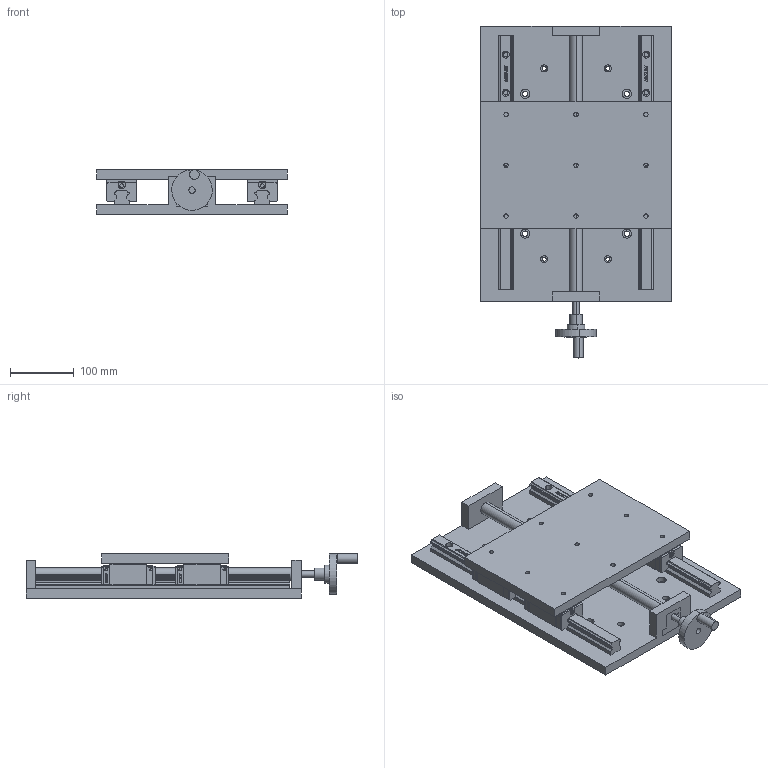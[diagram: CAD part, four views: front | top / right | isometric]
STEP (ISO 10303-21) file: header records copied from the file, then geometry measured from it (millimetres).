
FILE_DESCRIPTION (( 'STEP AP214' ), '1' );
FILE_NAME ('PT300-200.STEP', '2022-09-18T06:02:57', ( '' ), ( '' ), 'SwSTEP 2.0', 'SolidWorks 2017', '' );
FILE_SCHEMA (( 'AUTOMOTIVE_DESIGN' ));
Length unit declared in the file: millimetre
Products named in the file (12): 忒謫; PT300-200; 標踡輸; 標踡; HGH25CA2R300Z0C_GW202204023669; 醱啣; 菁啣-200; HGH25C__X2_5DE65C01_X0__temp; M6H; HGH25C__X2_53F35C01_X0__temp; 34320001; HGR25_temp-1
Assembly tree (12 placements, depth 3):
  PT300-200
    菁啣-200
    醱啣
    HGH25CA2R300Z0C_GW202204023669  x2
      HGR25_temp-1
      HGH25C__X2_53F35C01_X0__temp
      M6H
      HGH25C__X2_5DE65C01_X0__temp
      34320001
    標踡
      標踡輸
      忒謫
Bounding box: 300 x 522.1 x 70.06 mm (x, y, z)
Volume: 3865395.8 mm3; surface area: 681108.4 mm2
Topology: 31 solids, 33 shells, 2826 faces, 7945 edges, 5240 vertices
Faces by surface type: plane 1878, cylinder 758, bspline 126, cone 56, torus 8
Entity records: 64134 total; most frequent: CARTESIAN_POINT 9996, ORIENTED_EDGE 8230, DIRECTION 7717, EDGE_CURVE 4115, VECTOR 3033, LINE 3033, VERTEX_POINT 2729, AXIS2_PLACEMENT_3D 2342
